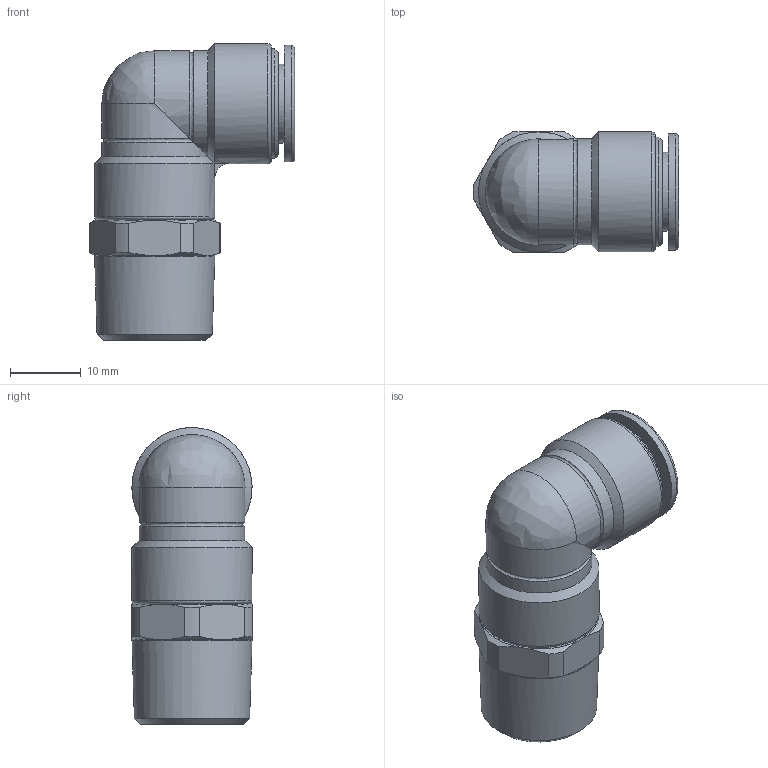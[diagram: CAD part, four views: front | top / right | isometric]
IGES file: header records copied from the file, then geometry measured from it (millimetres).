
Global section: file name: [13] FS10-03ML FS10-03MLW; native system: Autodesk Inventor 2014; preprocessor: unknown; author: kazuhiro.t; date: 20130806.164847; units: millimetre
Bounding box: 29.05 x 17 x 42 mm (x, y, z)
Volume: 9812.1 mm3; surface area: 3865.3 mm2
Topology: 1 solids, 1 shells, 60 faces, 140 edges, 85 vertices
Faces by surface type: bspline 60
